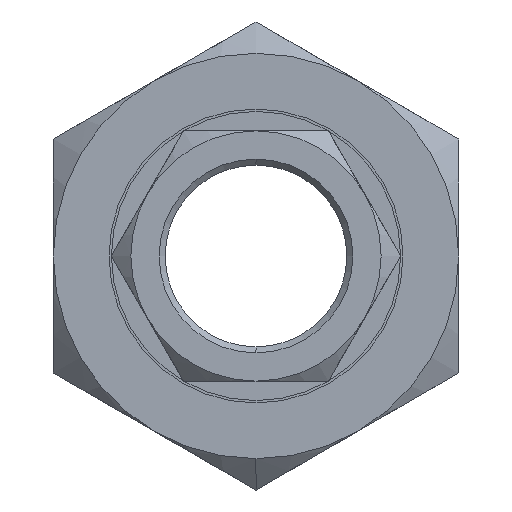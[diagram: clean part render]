
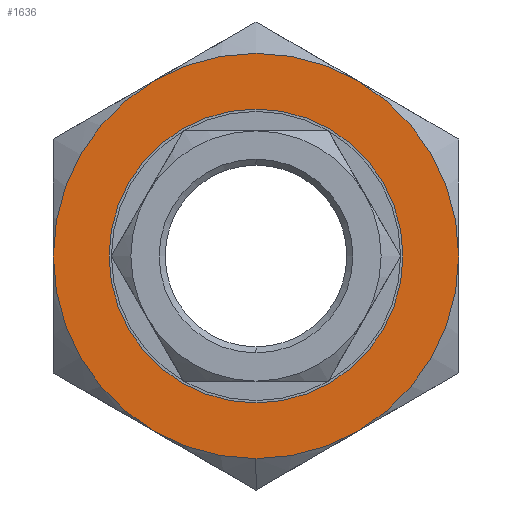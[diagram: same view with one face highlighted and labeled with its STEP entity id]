
A CAD part, front view. The second image highlights one B-rep face of the part: STEP entity #1636.
In plain terms, the highlighted planar face has unit normal (0, -1, 0).
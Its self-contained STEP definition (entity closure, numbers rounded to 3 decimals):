
#5 = AXIS2_PLACEMENT_3D ( 'NONE', #1582, #1330, #1064 ) ;
#32 = DIRECTION ( 'NONE',  ( 0., 0., 1. ) ) ;
#45 = AXIS2_PLACEMENT_3D ( 'NONE', #1648, #1386, #1124 ) ;
#56 = EDGE_CURVE ( 'NONE', #1026, #2324, #2167, .T. ) ;
#92 = ORIENTED_EDGE ( 'NONE', *, *, #2488, .F. ) ;
#130 = DIRECTION ( 'NONE',  ( 0., 0., 1. ) ) ;
#180 = CARTESIAN_POINT ( 'NONE',  ( 0., -7.5, 0. ) ) ;
#283 = VERTEX_POINT ( 'NONE', #917 ) ;
#321 = DIRECTION ( 'NONE',  ( 0., 1., 0. ) ) ;
#326 = FACE_OUTER_BOUND ( 'NONE', #1586, .T. ) ;
#371 = CIRCLE ( 'NONE', #1551, 17. ) ;
#432 = DIRECTION ( 'NONE',  ( 0., 1., 0. ) ) ;
#435 = CIRCLE ( 'NONE', #45, 12.324 ) ;
#441 = EDGE_CURVE ( 'NONE', #2262, #1934, #799, .T. ) ;
#487 = AXIS2_PLACEMENT_3D ( 'NONE', #720, #432, #130 ) ;
#496 = CARTESIAN_POINT ( 'NONE',  ( -8.5, -7.5, 14.722 ) ) ;
#505 = AXIS2_PLACEMENT_3D ( 'NONE', #180, #2245, #1991 ) ;
#563 = CARTESIAN_POINT ( 'NONE',  ( 17., -7.5, 0. ) ) ;
#622 = CARTESIAN_POINT ( 'NONE',  ( 0., -7.5, 0. ) ) ;
#720 = CARTESIAN_POINT ( 'NONE',  ( 0., -7.5, 0. ) ) ;
#726 = ORIENTED_EDGE ( 'NONE', *, *, #856, .F. ) ;
#727 = AXIS2_PLACEMENT_3D ( 'NONE', #1274, #1011, #747 ) ;
#747 = DIRECTION ( 'NONE',  ( 0., 0., -1. ) ) ;
#752 = CIRCLE ( 'NONE', #1249, 17. ) ;
#764 = AXIS2_PLACEMENT_3D ( 'NONE', #1574, #1326, #1057 ) ;
#799 = CIRCLE ( 'NONE', #727, 17. ) ;
#849 = CIRCLE ( 'NONE', #2134, 17. ) ;
#856 = EDGE_CURVE ( 'NONE', #2113, #1026, #1629, .T. ) ;
#865 = CARTESIAN_POINT ( 'NONE',  ( 8.5, -7.5, -14.722 ) ) ;
#904 = FACE_BOUND ( 'NONE', #1222, .T. ) ;
#917 = CARTESIAN_POINT ( 'NONE',  ( -8.5, -7.5, -14.722 ) ) ;
#972 = DIRECTION ( 'NONE',  ( 0., 0., 1. ) ) ;
#976 = DIRECTION ( 'NONE',  ( 0., 0., 1. ) ) ;
#1011 = DIRECTION ( 'NONE',  ( 0., -1., 0. ) ) ;
#1026 = VERTEX_POINT ( 'NONE', #496 ) ;
#1057 = DIRECTION ( 'NONE',  ( 0., 0., 1. ) ) ;
#1064 = DIRECTION ( 'NONE',  ( 0., 0., 1. ) ) ;
#1071 = VERTEX_POINT ( 'NONE', #1370 ) ;
#1124 = DIRECTION ( 'NONE',  ( 0., 0., 1. ) ) ;
#1125 = AXIS2_PLACEMENT_3D ( 'NONE', #2515, #2249, #1996 ) ;
#1176 = EDGE_CURVE ( 'NONE', #1611, #1071, #435, .T. ) ;
#1177 = ORIENTED_EDGE ( 'NONE', *, *, #56, .F. ) ;
#1222 = EDGE_LOOP ( 'NONE', ( #1605, #1597 ) ) ;
#1233 = DIRECTION ( 'NONE',  ( 0., 1., 0. ) ) ;
#1241 = DIRECTION ( 'NONE',  ( 0., 1., 0. ) ) ;
#1249 = AXIS2_PLACEMENT_3D ( 'NONE', #1492, #1241, #976 ) ;
#1257 = CARTESIAN_POINT ( 'NONE',  ( -17., -7.5, 0. ) ) ;
#1274 = CARTESIAN_POINT ( 'NONE',  ( 0., -7.5, 0. ) ) ;
#1326 = DIRECTION ( 'NONE',  ( 0., 1., 0. ) ) ;
#1330 = DIRECTION ( 'NONE',  ( 0., 1., 0. ) ) ;
#1349 = EDGE_CURVE ( 'NONE', #2262, #2294, #849, .T. ) ;
#1370 = CARTESIAN_POINT ( 'NONE',  ( 0., -7.5, 12.324 ) ) ;
#1386 = DIRECTION ( 'NONE',  ( 0., 1., 0. ) ) ;
#1435 = CARTESIAN_POINT ( 'NONE',  ( 0., -7.5, -12.324 ) ) ;
#1452 = CIRCLE ( 'NONE', #487, 17. ) ;
#1487 = CARTESIAN_POINT ( 'NONE',  ( 0., -7.5, 0. ) ) ;
#1492 = CARTESIAN_POINT ( 'NONE',  ( 0., -7.5, 0. ) ) ;
#1513 = CARTESIAN_POINT ( 'NONE',  ( 8.5, -7.5, 14.722 ) ) ;
#1524 = EDGE_CURVE ( 'NONE', #1071, #1611, #1543, .T. ) ;
#1543 = CIRCLE ( 'NONE', #1125, 12.324 ) ;
#1551 = AXIS2_PLACEMENT_3D ( 'NONE', #622, #321, #32 ) ;
#1574 = CARTESIAN_POINT ( 'NONE',  ( 0., -7.5, 0. ) ) ;
#1582 = CARTESIAN_POINT ( 'NONE',  ( 0., -7.5, 0. ) ) ;
#1586 = EDGE_LOOP ( 'NONE', ( #2189, #1177, #726, #1989, #92, #2577, #1952 ) ) ;
#1597 = ORIENTED_EDGE ( 'NONE', *, *, #1524, .T. ) ;
#1605 = ORIENTED_EDGE ( 'NONE', *, *, #1176, .T. ) ;
#1609 = EDGE_CURVE ( 'NONE', #2324, #1934, #1452, .T. ) ;
#1611 = VERTEX_POINT ( 'NONE', #1435 ) ;
#1629 = CIRCLE ( 'NONE', #505, 17. ) ;
#1636 = ADVANCED_FACE ( 'NONE', ( #326, #904 ), #1838, .F. ) ;
#1648 = CARTESIAN_POINT ( 'NONE',  ( 0., -7.5, 0. ) ) ;
#1838 = PLANE ( 'NONE',  #764 ) ;
#1839 = CARTESIAN_POINT ( 'NONE',  ( 0., -7.5, -17. ) ) ;
#1934 = VERTEX_POINT ( 'NONE', #563 ) ;
#1952 = ORIENTED_EDGE ( 'NONE', *, *, #441, .T. ) ;
#1989 = ORIENTED_EDGE ( 'NONE', *, *, #1993, .F. ) ;
#1991 = DIRECTION ( 'NONE',  ( 0., 0., 1. ) ) ;
#1993 = EDGE_CURVE ( 'NONE', #283, #2113, #752, .T. ) ;
#1996 = DIRECTION ( 'NONE',  ( 0., 0., 1. ) ) ;
#2113 = VERTEX_POINT ( 'NONE', #1257 ) ;
#2134 = AXIS2_PLACEMENT_3D ( 'NONE', #1487, #1233, #972 ) ;
#2167 = CIRCLE ( 'NONE', #5, 17. ) ;
#2189 = ORIENTED_EDGE ( 'NONE', *, *, #1609, .F. ) ;
#2245 = DIRECTION ( 'NONE',  ( 0., 1., 0. ) ) ;
#2249 = DIRECTION ( 'NONE',  ( 0., 1., 0. ) ) ;
#2262 = VERTEX_POINT ( 'NONE', #865 ) ;
#2294 = VERTEX_POINT ( 'NONE', #1839 ) ;
#2324 = VERTEX_POINT ( 'NONE', #1513 ) ;
#2488 = EDGE_CURVE ( 'NONE', #2294, #283, #371, .T. ) ;
#2515 = CARTESIAN_POINT ( 'NONE',  ( 0., -7.5, 0. ) ) ;
#2577 = ORIENTED_EDGE ( 'NONE', *, *, #1349, .F. ) ;
